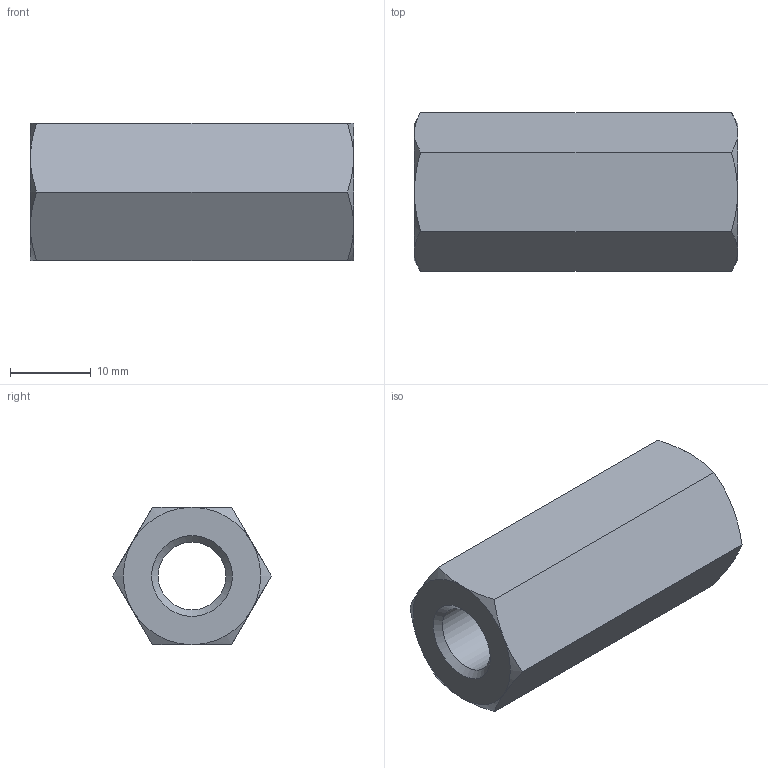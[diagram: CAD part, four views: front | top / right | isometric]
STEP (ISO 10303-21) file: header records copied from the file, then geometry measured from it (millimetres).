
FILE_DESCRIPTION( ( 'STEP AP203' ), '1' );
FILE_NAME( 'C:/Temp/Ganter_Step_05_03_2020/data/3_2/gn6220/gn6220_st/Spacer GN 6220-ST-M10-40-A.stp', '2020-03-13T05:42:36', ( 'License CC BY-ND 4.0' ), ( 'CADENAS' ), ' ', 'PARTsolutions', ' ' );
FILE_SCHEMA( ( 'CONFIG_CONTROL_DESIGN' ) );
Length unit declared in the file: millimetre
Products named in the file (1): _Spacer GN 6220-ST-M10-40-A
Bounding box: 40 x 19.63 x 17 mm (x, y, z)
Volume: 7778.1 mm3; surface area: 3751.7 mm2
Topology: 1 solids, 1 shells, 23 faces, 49 edges, 28 vertices
Faces by surface type: cone 14, plane 8, cylinder 1
Full cylindrical faces by diameter (mm): 8.376 x1
Entity records: 728 total; most frequent: CARTESIAN_POINT 234, ORIENTED_EDGE 92, DIRECTION 86, EDGE_CURVE 46, AXIS2_PLACEMENT_3D 40, EDGE_LOOP 28, VERTEX_POINT 28, FACE_OUTER_BOUND 24
